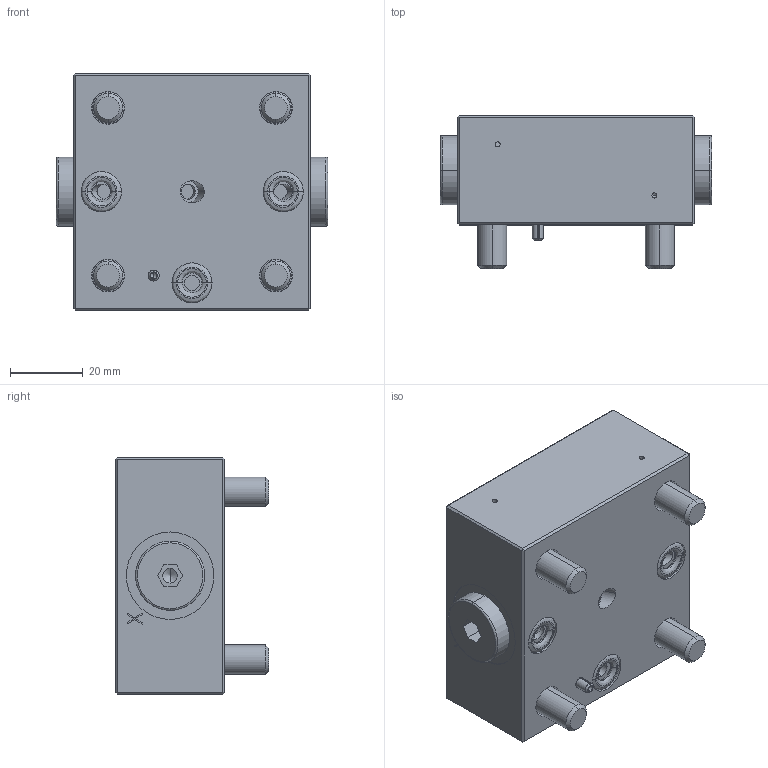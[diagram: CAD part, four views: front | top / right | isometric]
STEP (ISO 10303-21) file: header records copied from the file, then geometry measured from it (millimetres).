
FILE_DESCRIPTION (( 'STEP AP214' ), '1' );
FILE_NAME ('D16430.STEP', '2017-03-17T14:12:40', ( '' ), ( '' ), 'SwSTEP 2.0', 'SolidWorks 2016', '' );
FILE_SCHEMA (( 'AUTOMOTIVE_DESIGN' ));
Length unit declared in the file: millimetre
Products named in the file (1): D16430
Bounding box: 74.4 x 42 x 65.16 mm (x, y, z)
Volume: 124901.1 mm3; surface area: 29297.2 mm2
Topology: 12 solids, 15 shells, 343 faces, 764 edges, 468 vertices
Faces by surface type: plane 151, cylinder 106, cone 38, bspline 24, torus 20, sphere 4
Entity records: 13550 total; most frequent: CARTESIAN_POINT 2064, DIRECTION 1684, ORIENTED_EDGE 1496, EDGE_CURVE 748, AXIS2_PLACEMENT_3D 658, VERTEX_POINT 468, EDGE_LOOP 400, LINE 368
